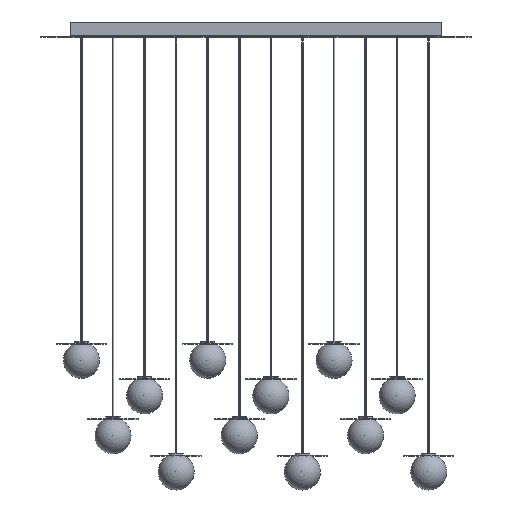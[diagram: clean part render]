
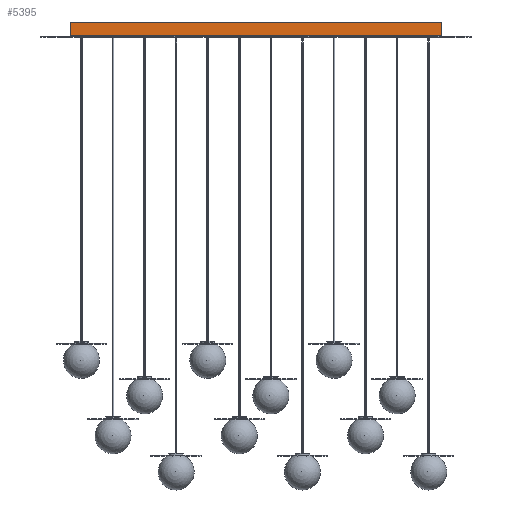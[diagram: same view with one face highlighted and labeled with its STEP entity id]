
A CAD part, top view. The second image highlights one B-rep face of the part: STEP entity #5395.
In plain terms, the highlighted planar face has unit normal (0, 0, 1).
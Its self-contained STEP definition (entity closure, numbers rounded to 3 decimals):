
#439 = CARTESIAN_POINT ( 'NONE',  ( 515., 2.5, 60. ) ) ;
#1208 = LINE ( 'NONE', #4511, #2585 ) ;
#1255 = LINE ( 'NONE', #9288, #7895 ) ;
#1436 = DIRECTION ( 'NONE',  ( 1., 0., 0. ) ) ;
#1528 = DIRECTION ( 'NONE',  ( -1., 0., 0. ) ) ;
#1549 = DIRECTION ( 'NONE',  ( 0., 1., 0. ) ) ;
#1791 = ORIENTED_EDGE ( 'NONE', *, *, #8115, .T. ) ;
#2142 = PLANE ( 'NONE',  #8443 ) ;
#2209 = FACE_OUTER_BOUND ( 'NONE', #11767, .T. ) ;
#2585 = VECTOR ( 'NONE', #1549, 1000. ) ;
#2792 = ORIENTED_EDGE ( 'NONE', *, *, #12612, .T. ) ;
#3202 = CARTESIAN_POINT ( 'NONE',  ( -515., 0., 60. ) ) ;
#4511 = CARTESIAN_POINT ( 'NONE',  ( 515., 0., 60. ) ) ;
#4975 = VECTOR ( 'NONE', #6236, 1000. ) ;
#5107 = DIRECTION ( 'NONE',  ( 0., 0., 1. ) ) ;
#5395 = ADVANCED_FACE ( 'NONE', ( #2209 ), #2142, .T. ) ;
#6236 = DIRECTION ( 'NONE',  ( 0., -1., 0. ) ) ;
#6265 = CARTESIAN_POINT ( 'NONE',  ( -515., 2.5, 60. ) ) ;
#6332 = CARTESIAN_POINT ( 'NONE',  ( 0., 0., 60. ) ) ;
#6416 = LINE ( 'NONE', #10353, #8107 ) ;
#6797 = CARTESIAN_POINT ( 'NONE',  ( -515., 40., 60. ) ) ;
#6971 = EDGE_CURVE ( 'NONE', #8105, #12527, #7333, .T. ) ;
#7102 = DIRECTION ( 'NONE',  ( 1., 0., 0. ) ) ;
#7333 = LINE ( 'NONE', #3202, #4975 ) ;
#7861 = VERTEX_POINT ( 'NONE', #11430 ) ;
#7895 = VECTOR ( 'NONE', #7102, 1000. ) ;
#8105 = VERTEX_POINT ( 'NONE', #6797 ) ;
#8107 = VECTOR ( 'NONE', #1528, 1000. ) ;
#8115 = EDGE_CURVE ( 'NONE', #11367, #7861, #1208, .T. ) ;
#8190 = ORIENTED_EDGE ( 'NONE', *, *, #11469, .T. ) ;
#8443 = AXIS2_PLACEMENT_3D ( 'NONE', #6332, #5107, #1436 ) ;
#9288 = CARTESIAN_POINT ( 'NONE',  ( 0., 2.5, 60. ) ) ;
#10353 = CARTESIAN_POINT ( 'NONE',  ( 0., 40., 60. ) ) ;
#11367 = VERTEX_POINT ( 'NONE', #439 ) ;
#11430 = CARTESIAN_POINT ( 'NONE',  ( 515., 40., 60. ) ) ;
#11469 = EDGE_CURVE ( 'NONE', #7861, #8105, #6416, .T. ) ;
#11767 = EDGE_LOOP ( 'NONE', ( #12240, #2792, #1791, #8190 ) ) ;
#12240 = ORIENTED_EDGE ( 'NONE', *, *, #6971, .T. ) ;
#12527 = VERTEX_POINT ( 'NONE', #6265 ) ;
#12612 = EDGE_CURVE ( 'NONE', #12527, #11367, #1255, .T. ) ;
